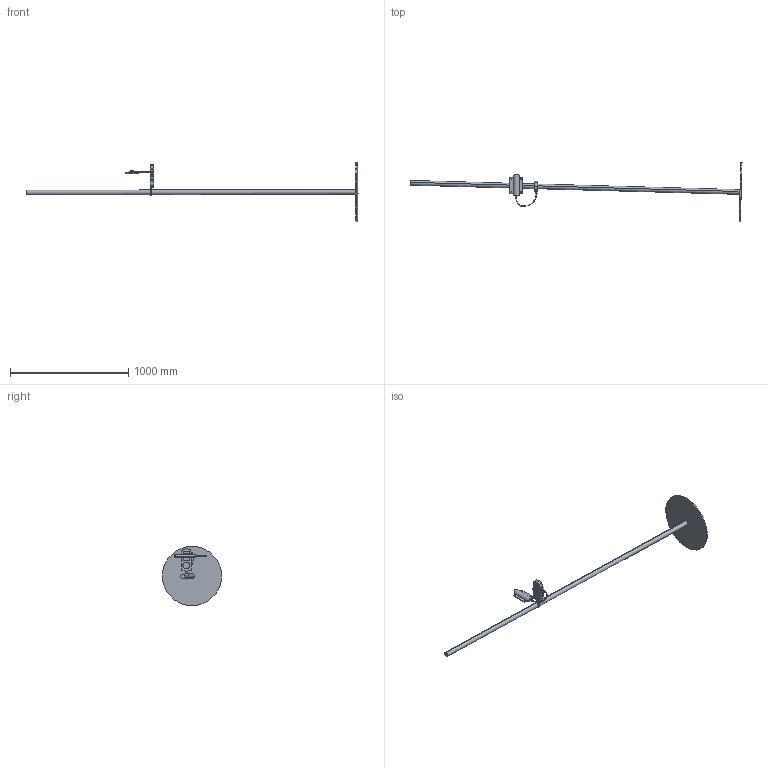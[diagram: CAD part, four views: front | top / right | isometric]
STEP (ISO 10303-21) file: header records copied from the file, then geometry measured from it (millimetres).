
FILE_DESCRIPTION((''),'2;1');
FILE_NAME('ASM0004_ASM','2025-12-30T11:29:46',('28740194'),(''),'CREO PARAMETRIC BY PTC INC, 2024063','CREO PARAMETRIC BY PTC INC, 2024063','');
FILE_SCHEMA(('CONFIG_CONTROL_DESIGN'));
Length unit declared in the file: millimetre
Products named in the file (7): KDF1200; 1572_08_035_2_5; 0; KDF12002-2; 00; ASM0004_ASM
Assembly tree (6 placements, depth 2):
  ASM0004_ASM
    KDF1200
    1572_08_035_2_5
    0
    KDF12002-2
    00
    00
Bounding box: 2806.42 x 499.76 x 499.69 mm (x, y, z)
Volume: 6177799 mm3; surface area: 863615.5 mm2
Topology: 8 solids, 10 shells, 520 faces, 1366 edges, 900 vertices
Faces by surface type: plane 399, cylinder 90, cone 15, torus 10, bspline 6
Entity records: 17123 total; most frequent: CARTESIAN_POINT 3961, ORIENTED_EDGE 2728, DIRECTION 2601, EDGE_CURVE 1366, VECTOR 1125, LINE 1125, VERTEX_POINT 900, AXIS2_PLACEMENT_3D 738
